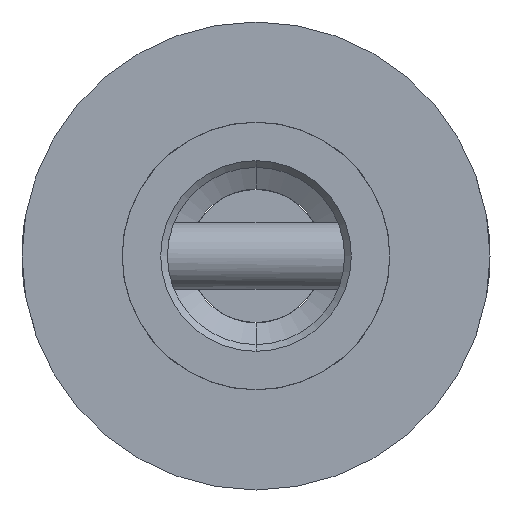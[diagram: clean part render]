
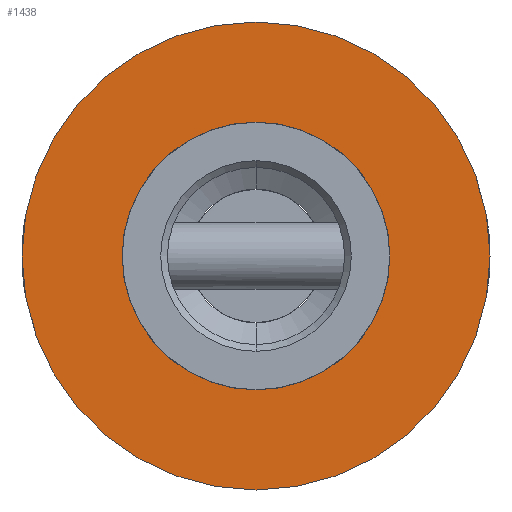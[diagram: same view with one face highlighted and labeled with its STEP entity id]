
A CAD part, front view. The second image highlights one B-rep face of the part: STEP entity #1438.
In plain terms, the highlighted planar face has unit normal (0, -1, 0).
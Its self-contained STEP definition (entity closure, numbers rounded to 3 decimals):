
#39 = VERTEX_POINT ( 'NONE', #2609 ) ;
#47 = DIRECTION ( 'NONE',  ( 0., 0., -1. ) ) ;
#108 = CARTESIAN_POINT ( 'NONE',  ( 0., -300., 0. ) ) ;
#140 = PLANE ( 'NONE',  #326 ) ;
#184 = ORIENTED_EDGE ( 'NONE', *, *, #1842, .T. ) ;
#224 = CARTESIAN_POINT ( 'NONE',  ( 0., -300., 0. ) ) ;
#326 = AXIS2_PLACEMENT_3D ( 'NONE', #224, #674, #47 ) ;
#671 = EDGE_CURVE ( 'NONE', #39, #2660, #1269, .T. ) ;
#674 = DIRECTION ( 'NONE',  ( 0., -1., 0. ) ) ;
#761 = CIRCLE ( 'NONE', #2815, 4.005 ) ;
#764 = EDGE_LOOP ( 'NONE', ( #2043, #2934 ) ) ;
#1269 = CIRCLE ( 'NONE', #1424, 7. ) ;
#1330 = DIRECTION ( 'NONE',  ( 0., -1., 0. ) ) ;
#1384 = FACE_BOUND ( 'NONE', #764, .T. ) ;
#1420 = EDGE_CURVE ( 'NONE', #2460, #2594, #761, .T. ) ;
#1424 = AXIS2_PLACEMENT_3D ( 'NONE', #108, #1330, #2870 ) ;
#1438 = ADVANCED_FACE ( 'NONE', ( #1384, #2685 ), #140, .T. ) ;
#1448 = AXIS2_PLACEMENT_3D ( 'NONE', #2224, #2210, #2198 ) ;
#1742 = DIRECTION ( 'NONE',  ( 0., 0., -1. ) ) ;
#1842 = EDGE_CURVE ( 'NONE', #2660, #39, #2876, .T. ) ;
#1890 = CARTESIAN_POINT ( 'NONE',  ( 0., -300., 4.005 ) ) ;
#1980 = DIRECTION ( 'NONE',  ( 0., -1., 0. ) ) ;
#1985 = CARTESIAN_POINT ( 'NONE',  ( 0., -300., -4.005 ) ) ;
#2002 = CARTESIAN_POINT ( 'NONE',  ( 0., -300., 0. ) ) ;
#2043 = ORIENTED_EDGE ( 'NONE', *, *, #3172, .F. ) ;
#2198 = DIRECTION ( 'NONE',  ( 0., 0., -1. ) ) ;
#2210 = DIRECTION ( 'NONE',  ( 0., -1., 0. ) ) ;
#2224 = CARTESIAN_POINT ( 'NONE',  ( 0., -300., 0. ) ) ;
#2285 = CIRCLE ( 'NONE', #1448, 4.005 ) ;
#2366 = DIRECTION ( 'NONE',  ( 0., 0., -1. ) ) ;
#2382 = DIRECTION ( 'NONE',  ( 0., -1., 0. ) ) ;
#2401 = CARTESIAN_POINT ( 'NONE',  ( 0., -300., 0. ) ) ;
#2460 = VERTEX_POINT ( 'NONE', #1890 ) ;
#2472 = CARTESIAN_POINT ( 'NONE',  ( 0., -300., 7. ) ) ;
#2594 = VERTEX_POINT ( 'NONE', #1985 ) ;
#2609 = CARTESIAN_POINT ( 'NONE',  ( 0., -300., -7. ) ) ;
#2660 = VERTEX_POINT ( 'NONE', #2472 ) ;
#2685 = FACE_OUTER_BOUND ( 'NONE', #2982, .T. ) ;
#2741 = AXIS2_PLACEMENT_3D ( 'NONE', #2401, #2382, #2366 ) ;
#2815 = AXIS2_PLACEMENT_3D ( 'NONE', #2002, #1980, #1742 ) ;
#2870 = DIRECTION ( 'NONE',  ( 0., 0., -1. ) ) ;
#2876 = CIRCLE ( 'NONE', #2741, 7. ) ;
#2909 = ORIENTED_EDGE ( 'NONE', *, *, #671, .T. ) ;
#2934 = ORIENTED_EDGE ( 'NONE', *, *, #1420, .F. ) ;
#2982 = EDGE_LOOP ( 'NONE', ( #2909, #184 ) ) ;
#3172 = EDGE_CURVE ( 'NONE', #2594, #2460, #2285, .T. ) ;
